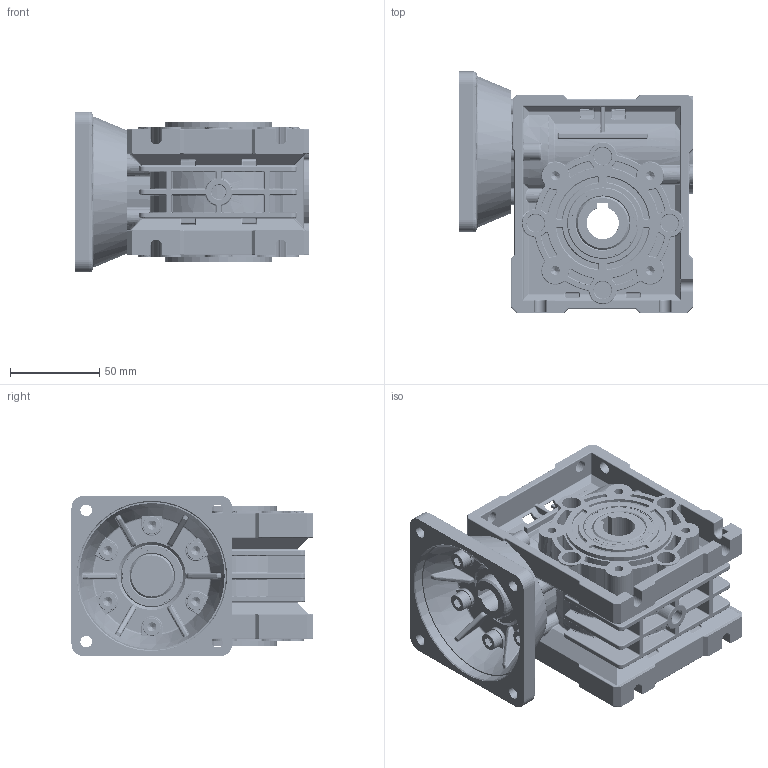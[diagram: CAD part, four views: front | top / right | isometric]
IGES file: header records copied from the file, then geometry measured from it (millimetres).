
Start section: SolidWorks IGES file using analytic representation for surfaces
Bounding box: 131 x 135 x 90 mm (x, y, z)
Surface area: 213168.9 mm2 (no closed solid volume)
Topology: 0 solids, 0 shells, 3541 faces, 33989 edges, 33734 vertices
Faces by surface type: revolution 1828, bspline 1713
